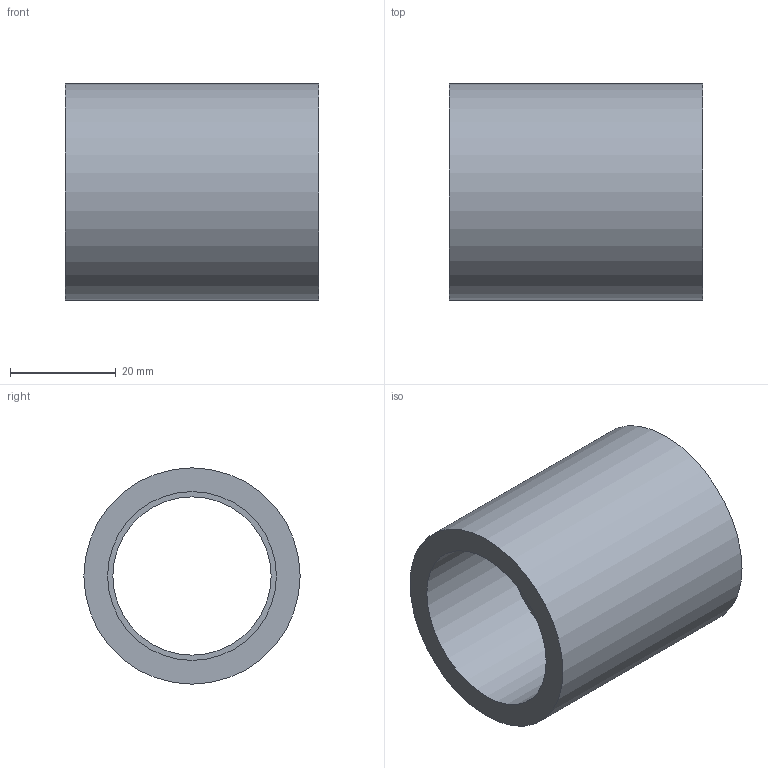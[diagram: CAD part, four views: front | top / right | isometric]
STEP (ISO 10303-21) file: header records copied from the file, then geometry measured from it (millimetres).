
FILE_DESCRIPTION(/* description */ ('PVC manicotti metrici incollaggio'),/* implementation_level */ '2;1');
FILE_NAME(/* name */ 'C:\Users\POLYPIPE\Desktop\DATASET INVENTOR\LIBRERIA EFFAST\RACCORDI 3DxWEB\RDR\3D_RDRMAD\3D_RDRMAD0320.stp',/* time_stamp */ '2018-01-19T14:38:32+01:00',/* author */ ('POLYPIPE'),/* organization */ ('Polypipe Italia s.r.l.'),/* preprocessor_version */ 'ST-DEVELOPER v16.1',/* originating_system */ 'Autodesk Inventor 2016',/* authorisation */ '');
FILE_SCHEMA (('CONFIG_CONTROL_DESIGN'));
Length unit declared in the file: millimetre
Products named in the file (1): 3D_RDRMAD
Bounding box: 48 x 41 x 41 mm (x, y, z)
Volume: 25157.9 mm3; surface area: 12209.8 mm2
Topology: 1 solids, 1 shells, 8 faces, 12 edges, 8 vertices
Faces by surface type: cylinder 4, plane 4
Full cylindrical faces by diameter (mm): 30 x1, 32 x2, 41 x1
Entity records: 192 total; most frequent: DIRECTION 34, CARTESIAN_POINT 25, AXIS2_PLACEMENT_3D 17, EDGE_LOOP 16, ORIENTED_EDGE 16, FACE_BOUND 8, FACE_OUTER_BOUND 8, CIRCLE 8
